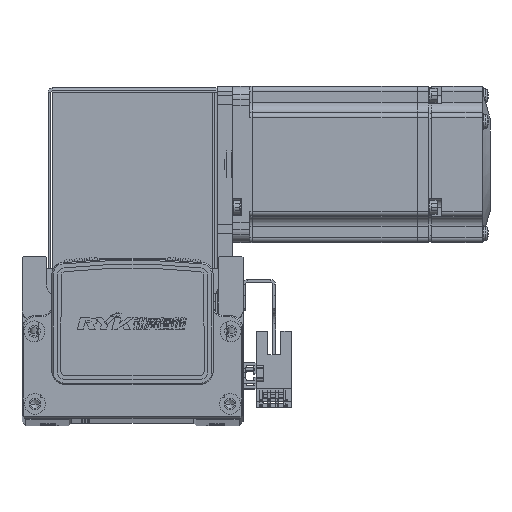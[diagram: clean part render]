
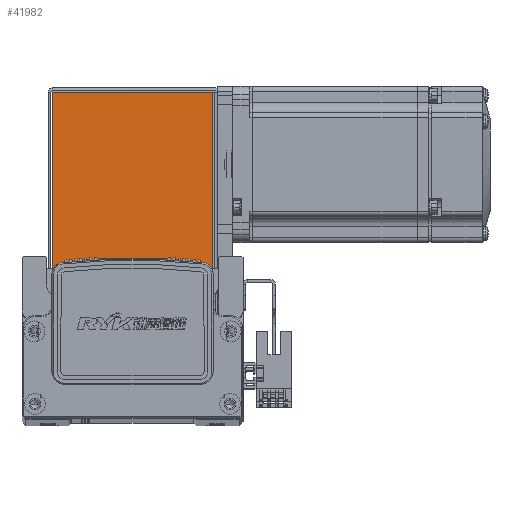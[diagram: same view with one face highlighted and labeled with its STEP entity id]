
A CAD part, top view. The second image highlights one B-rep face of the part: STEP entity #41982.
In plain terms, the highlighted planar face has unit normal (0, 0, 1) as drawn and (0, 0, -1) by its records, which use the part's own axes.
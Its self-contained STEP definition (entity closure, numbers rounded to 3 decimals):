
#9742 = CARTESIAN_POINT ( 'NONE',  ( 30.763, 68.5, -35. ) ) ;
#9826 = CARTESIAN_POINT ( 'NONE',  ( -30.793, 0.737, -35. ) ) ;
#9866 = CARTESIAN_POINT ( 'NONE',  ( -30.793, 68.5, -35. ) ) ;
#9959 = CARTESIAN_POINT ( 'NONE',  ( 30.763, 0.737, -35. ) ) ;
#11106 = ORIENTED_EDGE ( 'NONE', *, *, #43544, .T. ) ;
#11107 = ORIENTED_EDGE ( 'NONE', *, *, #43619, .T. ) ;
#11109 = ORIENTED_EDGE ( 'NONE', *, *, #43584, .F. ) ;
#11120 = ORIENTED_EDGE ( 'NONE', *, *, #43640, .T. ) ;
#36836 = EDGE_LOOP ( 'NONE', ( #11106, #11109, #11107, #11120 ) ) ;
#40807 = AXIS2_PLACEMENT_3D ( 'NONE', #51885, #51866, #51899 ) ;
#41982 = ADVANCED_FACE ( 'NONE', ( #77206 ), #51888, .F. ) ;
#43544 = EDGE_CURVE ( 'NONE', #49816, #49899, #74498, .T. ) ;
#43584 = EDGE_CURVE ( 'NONE', #49860, #49899, #74664, .T. ) ;
#43619 = EDGE_CURVE ( 'NONE', #49860, #49887, #74769, .T. ) ;
#43640 = EDGE_CURVE ( 'NONE', #49887, #49816, #74722, .T. ) ;
#49816 = VERTEX_POINT ( 'NONE', #9742 ) ;
#49860 = VERTEX_POINT ( 'NONE', #9826 ) ;
#49887 = VERTEX_POINT ( 'NONE', #9866 ) ;
#49899 = VERTEX_POINT ( 'NONE', #9959 ) ;
#51866 = DIRECTION ( 'NONE',  ( 0., 0., 1. ) ) ;
#51885 = CARTESIAN_POINT ( 'NONE',  ( 0., 0., -35. ) ) ;
#51888 = PLANE ( 'NONE',  #40807 ) ;
#51899 = DIRECTION ( 'NONE',  ( 0., -1., 0. ) ) ;
#57819 = DIRECTION ( 'NONE',  ( 1., 0., 0. ) ) ;
#57834 = CARTESIAN_POINT ( 'NONE',  ( 32.5, 0.737, -35. ) ) ;
#58007 = DIRECTION ( 'NONE',  ( 0., 1., 0. ) ) ;
#58027 = CARTESIAN_POINT ( 'NONE',  ( -30.793, 0., -35. ) ) ;
#58044 = DIRECTION ( 'NONE',  ( 1., 0., 0. ) ) ;
#58055 = CARTESIAN_POINT ( 'NONE',  ( 0., 68.5, -35. ) ) ;
#74495 = VECTOR ( 'NONE', #78780, 1000. ) ;
#74498 = LINE ( 'NONE', #78779, #74495 ) ;
#74664 = LINE ( 'NONE', #57834, #74712 ) ;
#74712 = VECTOR ( 'NONE', #57819, 1000. ) ;
#74722 = LINE ( 'NONE', #58055, #74819 ) ;
#74758 = VECTOR ( 'NONE', #58007, 1000. ) ;
#74769 = LINE ( 'NONE', #58027, #74758 ) ;
#74819 = VECTOR ( 'NONE', #58044, 1000. ) ;
#77206 = FACE_OUTER_BOUND ( 'NONE', #36836, .T. ) ;
#78779 = CARTESIAN_POINT ( 'NONE',  ( 30.763, 68.5, -35. ) ) ;
#78780 = DIRECTION ( 'NONE',  ( 0., -1., 0. ) ) ;
